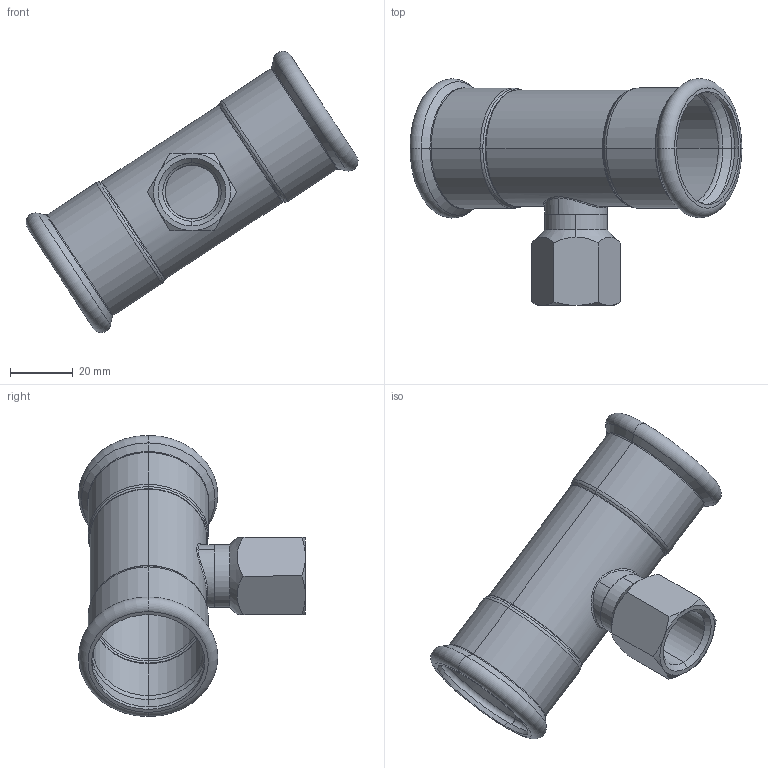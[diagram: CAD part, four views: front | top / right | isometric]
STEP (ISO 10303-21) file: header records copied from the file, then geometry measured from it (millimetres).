
FILE_DESCRIPTION (( 'STEP AP203' ), '1' );
FILE_NAME ('GDA5249.STEP', '2019-01-14T01:02:36', ( '' ), ( '' ), 'SwSTEP 2.0', 'SolidWorks 2015', '' );
FILE_SCHEMA (( 'CONFIG_CONTROL_DESIGN' ));
Length unit declared in the file: millimetre
Products named in the file (3): GDA5249; T(R)-¢ñ-35¡Á18''; ITC-I-03-18℅?
Assembly tree (2 placements, depth 2):
  GDA5249
    ITC-I-03-18℅?
    T(R)-¢ñ-35¡Á18''
Bounding box: 105.63 x 72.15 x 89.48 mm (x, y, z)
Volume: 24572.7 mm3; surface area: 29197.2 mm2
Topology: 2 solids, 2 shells, 103 faces, 218 edges, 122 vertices
Faces by surface type: torus 32, cone 28, cylinder 26, plane 13, bspline 4
Entity records: 4089 total; most frequent: CARTESIAN_POINT 1556, DIRECTION 526, ORIENTED_EDGE 436, AXIS2_PLACEMENT_3D 236, EDGE_CURVE 218, CIRCLE 132, VERTEX_POINT 122, EDGE_LOOP 112
